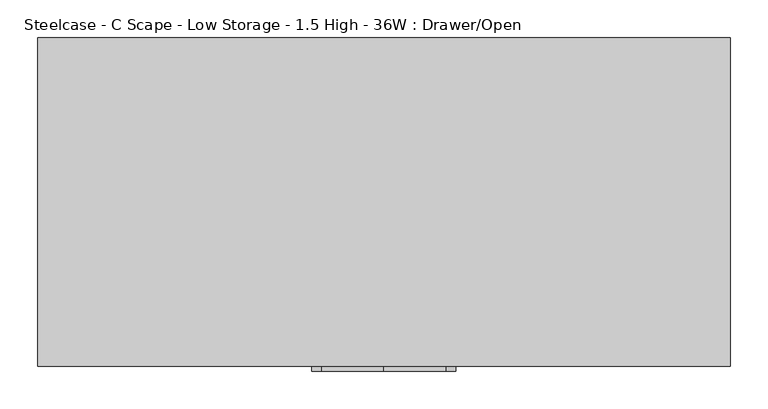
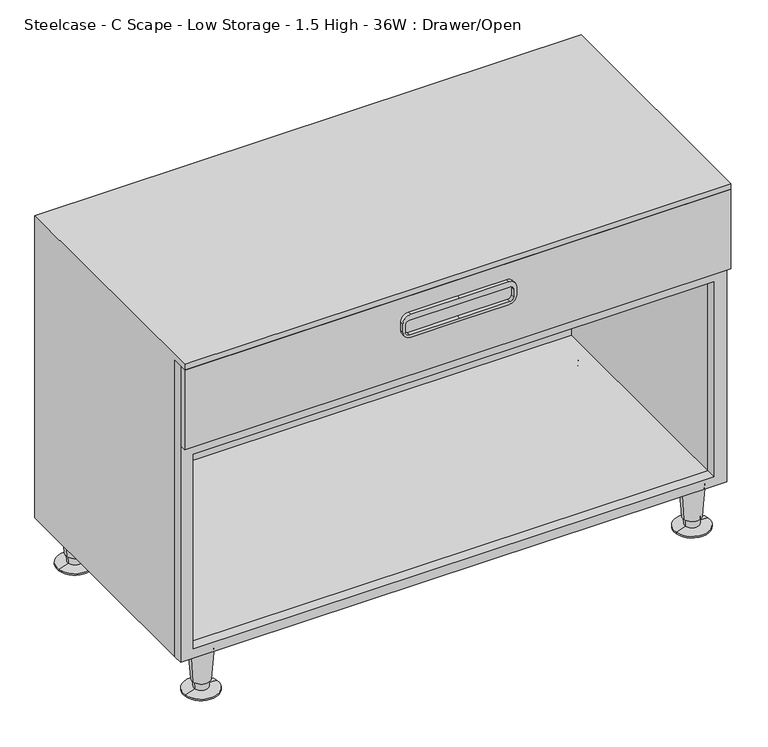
"""IFC4 building model written with IfcOpenShell, lengths in millimetres: furniture geometry, Steelcase - C Scape - Low Storage - 1.5 High - 36W : Drawer/Open."""

import ifcopenshell
import ifcopenshell.guid

model = None  # the IFC model being written
_history = None  # IfcOwnerHistory: only IFC2X3 demands one
_inside = {}  # id of a spatial element -> (the spatial element, [elements in it])
_under = {}  # id of a project, library or spatial element -> (it, [spatial elements below it])
_declared = {}  # id of a project -> (the project, [libraries it declares])
_typed = {}  # id of a type object -> (the type object, [elements of that type])
_made_of = {}  # id of a material, layer set ... -> (it, [elements and type objects made of it])


def new_model(schema):
    """Start an empty IFC model of exactly this schema.

    Asked for "IFC4X3", IfcOpenShell would pick the latest addendum, in which some entities
    have other attributes; the version numbers below select the first issue.
    IFC2X3 requires an IfcOwnerHistory on every rooted entity: one is made here for all.
    """
    global model, _history
    if schema == "IFC4X3":
        model = ifcopenshell.file(schema_version=(4, 3, 0, 0))
    else:
        model = ifcopenshell.file(schema=schema)
    _inside.clear()
    _under.clear()
    _declared.clear()
    _typed.clear()
    _made_of.clear()
    _history = None
    if model.schema == "IFC2X3":
        org = make("IfcOrganization", Name="unknown")
        user = make(
            "IfcPersonAndOrganization",
            ThePerson=make("IfcPerson", FamilyName="unknown"),
            TheOrganization=org,
        )
        app = make(
            "IfcApplication",
            ApplicationDeveloper=org,
            Version="unknown",
            ApplicationFullName="unknown",
            ApplicationIdentifier="unknown",
        )
        _history = make(
            "IfcOwnerHistory",
            OwningUser=user,
            OwningApplication=app,
            ChangeAction="ADDED",
            CreationDate=0,
        )
    return model


def make(cls, **values):
    """One entity of the class cls with the attributes given. An attribute that is None is left unset."""
    return model.create_entity(
        cls, **{name: value for name, value in values.items() if value is not None}
    )


def rooted(cls, **values):
    """An entity with a GlobalId (a new one), such as an element, a storey or a relation."""
    return make(cls, GlobalId=ifcopenshell.guid.new(), OwnerHistory=_history, **values)


def si_unit(unit_type, name, prefix=None):
    """IfcSIUnit, for example si_unit("LENGTHUNIT", "METRE", prefix="MILLI")."""
    return make("IfcSIUnit", UnitType=unit_type, Prefix=prefix, Name=name)


def assignment(units):
    """IfcUnitAssignment: the units of a project."""
    return None if units is None else make("IfcUnitAssignment", Units=units)


def point(xyz):
    """IfcCartesianPoint."""
    return None if xyz is None else make("IfcCartesianPoint", Coordinates=xyz)


def direction(xyz):
    """IfcDirection."""
    return None if xyz is None else make("IfcDirection", DirectionRatios=xyz)


def frame(location, z_axis=None, x_axis=None):
    """IfcAxis2Placement3D, a coordinate frame: its origin and axes. An axis left out is left unset."""
    return make(
        "IfcAxis2Placement3D",
        Location=point(location),
        Axis=direction(z_axis),
        RefDirection=direction(x_axis),
    )


def frame_2d(location, x_axis=None):
    """IfcAxis2Placement2D, a coordinate frame in the plane: its origin and x axis."""
    return make(
        "IfcAxis2Placement2D", Location=point(location), RefDirection=direction(x_axis)
    )


def origin():
    """The frame at (0, 0, 0) with its axes left unset."""
    return frame((0.0, 0.0, 0.0))


def place(relative_to, where):
    """IfcLocalPlacement: puts the frame where relative to a parent placement (None: the world)."""
    return make(
        "IfcLocalPlacement", PlacementRelTo=relative_to, RelativePlacement=where
    )


def context(
    kind, dimensions, precision=None, world=None, true_north=None, identifier=None
):
    """IfcGeometricRepresentationContext, for example the 3D "Model" context."""
    return make(
        "IfcGeometricRepresentationContext",
        ContextIdentifier=identifier,
        ContextType=kind,
        CoordinateSpaceDimension=dimensions,
        Precision=precision,
        WorldCoordinateSystem=world,
        TrueNorth=true_north,
    )


def project(units=None, contexts=None):
    """IfcProject with its units and contexts."""
    return rooted(
        "IfcProject",
        Name="project",
        RepresentationContexts=contexts,
        UnitsInContext=assignment(units),
    )


def spatial(cls, under=None, at=None, **own):
    """A site, building, storey or space (cls), placed at a placement, below another one or the project."""
    s = rooted(cls, ObjectPlacement=at, **own)
    if under is not None:
        _under.setdefault(under.id(), (under, []))[1].append(s)
    return s


def polyline(points):
    """IfcPolyline through the points."""
    return make("IfcPolyline", Points=[point(p) for p in points])


def circle_curve(where, radius):
    """IfcCircle in the frame where."""
    return make("IfcCircle", Position=where, Radius=radius)


def trimmed(basis, trim1, trim2, sense, master):
    """IfcTrimmedCurve: the piece of a basis curve between two trims."""
    return make(
        "IfcTrimmedCurve",
        BasisCurve=basis,
        Trim1=trim1,
        Trim2=trim2,
        SenseAgreement=sense,
        MasterRepresentation=master,
    )


def segment(curve, same_sense, transition):
    """IfcCompositeCurveSegment."""
    return make(
        "IfcCompositeCurveSegment",
        Transition=transition,
        SameSense=same_sense,
        ParentCurve=curve,
    )


def composite_curve(segments, self_intersect=None):
    """IfcCompositeCurve: segments joined end to end."""
    return make("IfcCompositeCurve", Segments=segments, SelfIntersect=self_intersect)


def outline(outer, holes=None, kind="AREA"):
    """IfcArbitraryClosedProfileDef: a profile drawn as a closed curve; with holes, ...WithVoids."""
    if holes is None:
        return make("IfcArbitraryClosedProfileDef", ProfileType=kind, OuterCurve=outer)
    return make(
        "IfcArbitraryProfileDefWithVoids",
        ProfileType=kind,
        OuterCurve=outer,
        InnerCurves=holes,
    )


def extrude(swept, where, along, depth):
    """IfcExtrudedAreaSolid: the profile swept, set in the frame where, extruded along a direction by depth."""
    return make(
        "IfcExtrudedAreaSolid",
        SweptArea=swept,
        Position=where,
        ExtrudedDirection=direction(along),
        Depth=depth,
    )


def faces_of(points, faces, orient=None, outer=None):
    """IfcFace entities. A face is a list of loops; a loop is a list of indices into points, from 0.

    orient and outer hold one flag for each loop. By default every Orientation is true, the
    first loop of a face is its IfcFaceOuterBound and the others are IfcFaceBound.
    """
    made = []
    for i, loops in enumerate(faces):
        bounds = []
        for j, loop in enumerate(loops):
            is_outer = j == 0 if outer is None else outer[i][j]
            bounds.append(
                make(
                    "IfcFaceOuterBound" if is_outer else "IfcFaceBound",
                    Bound=make("IfcPolyLoop", Polygon=[points[k] for k in loop]),
                    Orientation=True if orient is None else orient[i][j],
                )
            )
        made.append(make("IfcFace", Bounds=bounds))
    return made


def faceted_brep(points, faces, orient=None, outer=None, voids=None):
    """IfcFacetedBrep: a solid bounded by flat faces; with voids (closed shells), ...WithVoids."""
    shared = [point(p) for p in points]
    hull = make("IfcClosedShell", CfsFaces=faces_of(shared, faces, orient, outer))
    if voids is None:
        return make("IfcFacetedBrep", Outer=hull)
    return make(
        "IfcFacetedBrepWithVoids",
        Outer=hull,
        Voids=[
            make(cls, CfsFaces=faces_of(shared, fs, o, b)) for cls, fs, o, b in voids
        ],
    )


def shape(context_of_items, identifier, shape_type, items):
    """IfcShapeRepresentation: the items that make up one representation, for example the "Body"."""
    return make(
        "IfcShapeRepresentation",
        ContextOfItems=context_of_items,
        RepresentationIdentifier=identifier,
        RepresentationType=shape_type,
        Items=items,
    )


def source(mapping_origin, context_of_items, identifier, shape_type, items):
    """IfcRepresentationMap: a shape defined once, which mapped items show again and again."""
    return make(
        "IfcRepresentationMap",
        MappingOrigin=mapping_origin,
        MappedRepresentation=shape(context_of_items, identifier, shape_type, items),
    )


def transform(
    local_origin,
    x_axis=None,
    y_axis=None,
    z_axis=None,
    scale=None,
    scale2=None,
    scale3=None,
    uniform=True,
):
    """IfcCartesianTransformationOperator3D, or its non-uniform kind. x_axis, y_axis, z_axis: its Axis1, 2, 3."""
    if uniform:
        return make(
            "IfcCartesianTransformationOperator3D",
            Axis1=direction(x_axis),
            Axis2=direction(y_axis),
            LocalOrigin=point(local_origin),
            Scale=scale,
            Axis3=direction(z_axis),
        )
    return make(
        "IfcCartesianTransformationOperator3DnonUniform",
        Axis1=direction(x_axis),
        Axis2=direction(y_axis),
        LocalOrigin=point(local_origin),
        Scale=scale,
        Axis3=direction(z_axis),
        Scale2=scale2,
        Scale3=scale3,
    )


def mapped(mapping_source, mapping_target):
    """IfcMappedItem: shows the shape of a source again, moved by a transform."""
    return make(
        "IfcMappedItem", MappingSource=mapping_source, MappingTarget=mapping_target
    )


def made_of(thing, what):
    """Note that an element or type object is made of a material, layer set ...; save() writes the relation."""
    if what is not None:
        _made_of.setdefault(what.id(), (what, []))[1].append(thing)
    return thing


def element(
    cls,
    number,
    at=None,
    inside=None,
    cuts=None,
    type_object=None,
    material=None,
    context=None,
    identifier="Body",
    shape_type=None,
    held_by="IfcProductDefinitionShape",
    body=None,
    shapes=None,
    **own,
):
    """One element of the class cls, such as IfcWall. Its Tag is "e" and its number.

    at: its placement. inside: the storey or other place that contains it. cuts: it is an
    opening in that element (IfcRelVoidsElement). A single representation is given by context,
    identifier, shape_type and body (its items); several are given by shapes. held_by: the class
    of the entity that holds the representations. save() writes the other relations.
    """
    e = rooted(cls, Tag="e%d" % number, ObjectPlacement=at, **own)
    if body is not None:
        shapes = [shape(context, identifier, shape_type, body)]
    if shapes is not None:
        e.Representation = make(held_by, Representations=shapes)
    if inside is not None:
        _inside.setdefault(inside.id(), (inside, []))[1].append(e)
    if cuts is not None:
        rooted(
            "IfcRelVoidsElement", RelatingBuildingElement=cuts, RelatedOpeningElement=e
        )
    if type_object is not None:
        _typed.setdefault(type_object.id(), (type_object, []))[1].append(e)
    return made_of(e, material)


def aggregate(whole, parts):
    """IfcRelAggregates: a whole, such as a stair, and the parts it consists of."""
    return rooted("IfcRelAggregates", RelatingObject=whole, RelatedObjects=parts)


def save(model, path):
    """Write the relations noted so far, then the file.

    IfcRelAggregates (storeys below a building ...), IfcRelContainedInSpatialStructure (elements
    in a storey), IfcRelDefinesByType, IfcRelAssociatesMaterial and IfcRelDeclares: one each for
    every whole, place, type object, material and project.
    """
    for whole, parts in _under.values():
        aggregate(whole, parts)
    for where, things in _inside.values():
        rooted(
            "IfcRelContainedInSpatialStructure",
            RelatedElements=things,
            RelatingStructure=where,
        )
    for kind, things in _typed.values():
        rooted("IfcRelDefinesByType", RelatedObjects=things, RelatingType=kind)
    for what, things in _made_of.values():
        rooted("IfcRelAssociatesMaterial", RelatedObjects=things, RelatingMaterial=what)
    for by, libraries in _declared.values():
        rooted("IfcRelDeclares", RelatingContext=by, RelatedDefinitions=libraries)
    model.write(path)


def plane_surface(at):
    """IfcPlane: the flat surface through the origin of the frame at, square to its z axis."""
    return make("IfcPlane", Position=at)


def cylinder_surface(at, radius):
    """IfcCylindricalSurface: all points at the distance radius from the z axis of the frame at."""
    return make("IfcCylindricalSurface", Position=at, Radius=radius)


def revolved_surface(curve, axis_point, axis_direction):
    """IfcSurfaceOfRevolution: the curve turned about the line through axis_point along axis_direction."""
    return make(
        "IfcSurfaceOfRevolution",
        SweptCurve=make("IfcArbitraryOpenProfileDef", ProfileType="CURVE", Curve=curve),
        AxisPosition=make("IfcAxis1Placement", Location=point(axis_point), Axis=direction(axis_direction)),
    )


def advanced_brep(points, edges, surfaces, faces):
    """IfcAdvancedBrep: a solid bounded by faces that lie on surfaces and meet in shared edges.

    An edge is (start, end): straight between two places in points (the first is 0);
    or (start, end, curve); or (start, end, curve, False) where it runs against its curve.
    A face is (place in surfaces, loops), or (place, loops, False) where it looks against
    its surface's normal. A loop lists edges by number (the first is 1), with a minus sign
    where the edge is run from its end to its start. The first loop is the outer one.
    """
    corners = [point(p) for p in points]
    vertices = [make("IfcVertexPoint", VertexGeometry=c) for c in corners]
    made = []
    for start, end, *more in edges:
        made.append(
            make(
                "IfcEdgeCurve",
                EdgeStart=vertices[start],
                EdgeEnd=vertices[end],
                EdgeGeometry=more[0] if more else make("IfcPolyline", Points=[corners[start], corners[end]]),
                SameSense=more[1] if len(more) > 1 else True,
            )
        )
    hull = []
    for where, loops, *sense in faces:
        bounds = []
        for j, loop in enumerate(loops):
            ring = [make("IfcOrientedEdge", EdgeElement=made[abs(k) - 1], Orientation=k > 0) for k in loop]
            bounds.append(
                make(
                    "IfcFaceOuterBound" if j == 0 else "IfcFaceBound",
                    Bound=make("IfcEdgeLoop", EdgeList=ring),
                    Orientation=True,
                )
            )
        hull.append(make("IfcAdvancedFace", Bounds=bounds, FaceSurface=surfaces[where], SameSense=sense[0] if sense else True))
    return make("IfcAdvancedBrep", Outer=make("IfcClosedShell", CfsFaces=hull))


def steelcase_c_scape_low_storage_1_5_high_36w_drawer_open_068823da(model_context):
    return source(origin(), model_context, "Body", "SolidModel", [
        extrude(outline(polyline([(76.2, 0.0), (76.2, 913.13), (599.44, 913.13), (599.44, 0.0), (76.2, 0.0)]), holes=[polyline([(458.7875121, 891.1617285), (458.7875121, 21.3382324), (582.93, 21.3382324), (582.93, 891.1617285), (458.7875121, 891.1617285)]), polyline([(92.7100024, 891.1617285), (92.7100024, 21.3382324), (436.8419, 21.3382324), (436.8419, 891.1617285), (92.7100024, 891.1617285)])]), frame((0.0, -421.6443408, 0.0), z_axis=(0.0, 1.0, 0.0), x_axis=(0.0, 0.0, 1.0)), (0.0, 0.0, 1.0), 17.2762904),
        extrude(outline(composite_curve([segment(trimmed(circle_curve(frame_2d((558.165, 374.0147442)), 12.7), [point((570.865, 374.0147442))], [point((558.165, 361.3147442))], False, "CARTESIAN"), True, "CONTINUOUS"), segment(polyline([(558.165, 361.3147442), (543.5600291, 361.3147442)]), True, "CONTINUOUS"), segment(trimmed(circle_curve(frame_2d((543.5600291, 374.0147442)), 12.7), [point((543.5600291, 361.3147442))], [point((530.8600291, 374.0147442))], False, "CARTESIAN"), True, "CONTINUOUS"), segment(polyline([(530.8600291, 374.0147442), (530.8600291, 456.2475), (530.8600291, 538.4802558)]), True, "CONTINUOUS"), segment(trimmed(circle_curve(frame_2d((543.5600291, 538.4802558)), 12.7), [point((530.8600291, 538.4802558))], [point((543.5600291, 551.1802558))], False, "CARTESIAN"), True, "CONTINUOUS"), segment(polyline([(543.5600291, 551.1802558), (558.165, 551.1802558)]), True, "CONTINUOUS"), segment(trimmed(circle_curve(frame_2d((558.165, 538.4802558)), 12.7), [point((558.165, 551.1802558))], [point((570.865, 538.4802558))], False, "CARTESIAN"), True, "CONTINUOUS"), segment(polyline([(570.865, 538.4802558), (570.865, 456.2475), (570.865, 374.0147442)]), True, "CONTINUOUS")], self_intersect=False), holes=[composite_curve([segment(trimmed(circle_curve(frame_2d((554.7360184, 372.4923565)), 6.35), [point((554.7360184, 366.1423565))], [point((561.0860184, 372.4923565))], True, "CARTESIAN"), True, "CONTINUOUS"), segment(polyline([(561.0860184, 372.4923565), (561.0860184, 456.2475), (561.0860184, 540.0026435)]), True, "CONTINUOUS"), segment(trimmed(circle_curve(frame_2d((554.7360184, 540.0026435)), 6.35), [point((561.0860184, 540.0026435))], [point((554.7360184, 546.3526435))], True, "CARTESIAN"), True, "CONTINUOUS"), segment(polyline([(554.7360184, 546.3526435), (542.0360063, 546.3526435)]), True, "CONTINUOUS"), segment(trimmed(circle_curve(frame_2d((542.0360063, 540.0026435)), 6.35), [point((542.0360063, 546.3526435))], [point((535.6860063, 540.0026435))], True, "CARTESIAN"), True, "CONTINUOUS"), segment(polyline([(535.6860063, 540.0026435), (535.6860063, 456.2475), (535.6860063, 372.4923565)]), True, "CONTINUOUS"), segment(trimmed(circle_curve(frame_2d((542.0360063, 372.4923565)), 6.35), [point((535.6860063, 372.4923565))], [point((542.0360063, 366.1423565))], True, "CARTESIAN"), True, "CONTINUOUS"), segment(polyline([(542.0360063, 366.1423565), (554.7360184, 366.1423565)]), True, "CONTINUOUS")], self_intersect=False)]), frame((0.0, -439.42, 0.0), z_axis=(0.0, 1.0, 0.0), x_axis=(0.0, 0.0, 1.0)), (0.0, 0.0, 1.0), 6.35),
        advanced_brep(
        [(885.8598695, -31.5218435, 76.2), (848.1981305, -37.2840847, 76.2), (867.029, -34.4029641, 76.2), (881.9095214, -32.1262463, 19.05), (852.1484786, -36.6796819, 19.05), (879.4799345, -32.4979728, 19.05), (854.5780655, -36.3079555, 19.05), (878.791165, -32.6033544, 5.7545598), (855.266835, -36.2025738, 5.7545598), (896.1400485, -29.9489775, 2.5119506), (837.9179515, -38.8569507, 2.5119506), (896.1400485, -29.9489775, 0.0), (837.9179515, -38.8569507, 0.0), (867.029, -34.4029641, 0.0)],
        [
            (0, 1, circle_curve(frame((867.029, -34.4029641, 76.2), z_axis=(0.0, 0.0, 1.0), x_axis=(0.0, -1.0, 0.0)), 19.05)),
            (1, 2),
            (2, 0),
            (1, 0, circle_curve(frame((867.029, -34.4029641, 76.2), z_axis=(0.0, 0.0, 1.0), x_axis=(0.0, -1.0, 0.0)), 19.05)),
            (3, 4, circle_curve(frame((867.029, -34.4029641, 19.05), z_axis=(0.0, 0.0, 1.0), x_axis=(0.0, -1.0, 0.0)), 15.0536827)),
            (4, 1),
            (0, 3),
            (4, 3, circle_curve(frame((867.029, -34.4029641, 19.05), z_axis=(0.0, 0.0, 1.0), x_axis=(0.0, -1.0, 0.0)), 15.0536827)),
            (5, 6, circle_curve(frame((867.029, -34.4029641, 19.05), z_axis=(0.0, 0.0, 1.0), x_axis=(0.0, -1.0, 0.0)), 12.5958232)),
            (6, 4),
            (3, 5),
            (6, 5, circle_curve(frame((867.029, -34.4029641, 19.05), z_axis=(0.0, 0.0, 1.0), x_axis=(0.0, -1.0, 0.0)), 12.5958232)),
            (7, 8, circle_curve(frame((867.029, -34.4029641, 5.7545598), z_axis=(0.0, 0.0, 1.0), x_axis=(0.0, -1.0, 0.0)), 11.8990387)),
            (8, 6),
            (5, 7),
            (8, 7, circle_curve(frame((867.029, -34.4029641, 5.7545598), z_axis=(0.0, 0.0, 1.0), x_axis=(0.0, -1.0, 0.0)), 11.8990387)),
            (9, 10, circle_curve(frame((867.029, -34.4029641, 2.5119506), z_axis=(0.0, 0.0, 1.0), x_axis=(0.0, -1.0, 0.0)), 29.4498071)),
            (10, 8),
            (7, 9),
            (10, 9, circle_curve(frame((867.029, -34.4029641, 2.5119506), z_axis=(0.0, 0.0, 1.0), x_axis=(0.0, -1.0, 0.0)), 29.4498071)),
            (11, 12, circle_curve(frame((867.029, -34.4029641, 0.0), z_axis=(0.0, 0.0, 1.0), x_axis=(0.0, -1.0, 0.0)), 29.4498071)),
            (12, 10),
            (9, 11),
            (12, 11, circle_curve(frame((867.029, -34.4029641, 0.0), z_axis=(0.0, 0.0, 1.0), x_axis=(0.0, -1.0, 0.0)), 29.4498071)),
            (13, 12),
            (11, 13),
        ],
        [
            plane_surface(frame((867.029, -34.4029641, 76.2), z_axis=(0.0, 0.0, 1.0), x_axis=(0.0, -1.0, 0.0))),
            revolved_surface(polyline([(867.029, -53.4529641, 76.2), (867.029, -49.4566468, 19.05)]), (867.029, -34.4029641, 25.4), (0.0, 0.0, -1.0)),
            plane_surface(frame((867.029, -34.4029641, 19.05), z_axis=(0.0, 0.0, -1.0), x_axis=(0.0, -1.0, 0.0))),
            revolved_surface(polyline([(867.029, -46.9987873, 19.05), (867.029, -46.3020028, 5.7545598)]), (867.029, -34.4029641, 25.4), (0.0, 0.0, -1.0)),
            revolved_surface(polyline([(867.029, -46.3020028, 5.7545598), (867.029, -63.8527712, 2.5119506)]), (867.029, -34.4029641, 25.4), (0.0, 0.0, -1.0)),
            cylinder_surface(frame((867.029, -34.4029641, 25.4), z_axis=(0.0, 0.0, -1.0), x_axis=(0.0, -1.0, 0.0)), 29.4498071),
            plane_surface(frame((867.029, -34.4029641, 0.0), z_axis=(0.0, 0.0, -1.0), x_axis=(0.0, -1.0, 0.0))),
        ],
        [
            (0, [[1, 2, 3]]),
            (0, [[4, -3, -2]]),
            (1, [[5, 6, -1, 7]]),
            (1, [[8, -7, -4, -6]]),
            (2, [[9, 10, -5, 11]]),
            (2, [[12, -11, -8, -10]]),
            (3, [[13, 14, -9, 15]]),
            (3, [[16, -15, -12, -14]]),
            (4, [[17, 18, -13, 19]]),
            (4, [[20, -19, -16, -18]]),
            (5, [[21, 22, -17, 23]]),
            (5, [[24, -23, -20, -22]]),
            (6, [[25, -21, 26]]),
            (6, [[-26, -24, -25]]),
        ],
    ),
        advanced_brep(
        [(885.8598695, -397.1702762, 76.2), (848.1981305, -402.9325174, 76.2), (867.029, -400.0513968, 76.2), (881.9095214, -397.774679, 19.05), (852.1484786, -402.3281146, 19.05), (879.4799345, -398.1464055, 19.05), (854.5780655, -401.9563882, 19.05), (878.791165, -398.2517871, 5.7545598), (855.266835, -401.8510065, 5.7545598), (896.1400485, -395.5974102, 2.5119506), (837.9179515, -404.5053834, 2.5119506), (896.1400485, -395.5974102, 0.0), (837.9179515, -404.5053834, 0.0), (867.029, -400.0513968, 0.0)],
        [
            (0, 1, circle_curve(frame((867.029, -400.0513968, 76.2), z_axis=(0.0, 0.0, 1.0), x_axis=(0.0, -1.0, 0.0)), 19.05)),
            (1, 2),
            (2, 0),
            (1, 0, circle_curve(frame((867.029, -400.0513968, 76.2), z_axis=(0.0, 0.0, 1.0), x_axis=(0.0, -1.0, 0.0)), 19.05)),
            (3, 4, circle_curve(frame((867.029, -400.0513968, 19.05), z_axis=(0.0, 0.0, 1.0), x_axis=(0.0, -1.0, 0.0)), 15.0536827)),
            (4, 1),
            (0, 3),
            (4, 3, circle_curve(frame((867.029, -400.0513968, 19.05), z_axis=(0.0, 0.0, 1.0), x_axis=(0.0, -1.0, 0.0)), 15.0536827)),
            (5, 6, circle_curve(frame((867.029, -400.0513968, 19.05), z_axis=(0.0, 0.0, 1.0), x_axis=(0.0, -1.0, 0.0)), 12.5958232)),
            (6, 4),
            (3, 5),
            (6, 5, circle_curve(frame((867.029, -400.0513968, 19.05), z_axis=(0.0, 0.0, 1.0), x_axis=(0.0, -1.0, 0.0)), 12.5958232)),
            (7, 8, circle_curve(frame((867.029, -400.0513968, 5.7545598), z_axis=(0.0, 0.0, 1.0), x_axis=(0.0, -1.0, 0.0)), 11.8990387)),
            (8, 6),
            (5, 7),
            (8, 7, circle_curve(frame((867.029, -400.0513968, 5.7545598), z_axis=(0.0, 0.0, 1.0), x_axis=(0.0, -1.0, 0.0)), 11.8990387)),
            (9, 10, circle_curve(frame((867.029, -400.0513968, 2.5119506), z_axis=(0.0, 0.0, 1.0), x_axis=(0.0, -1.0, 0.0)), 29.4498071)),
            (10, 8),
            (7, 9),
            (10, 9, circle_curve(frame((867.029, -400.0513968, 2.5119506), z_axis=(0.0, 0.0, 1.0), x_axis=(0.0, -1.0, 0.0)), 29.4498071)),
            (11, 12, circle_curve(frame((867.029, -400.0513968, 0.0), z_axis=(0.0, 0.0, 1.0), x_axis=(0.0, -1.0, 0.0)), 29.4498071)),
            (12, 10),
            (9, 11),
            (12, 11, circle_curve(frame((867.029, -400.0513968, 0.0), z_axis=(0.0, 0.0, 1.0), x_axis=(0.0, -1.0, 0.0)), 29.4498071)),
            (13, 12),
            (11, 13),
        ],
        [
            plane_surface(frame((867.029, -400.0513968, 76.2), z_axis=(0.0, 0.0, 1.0), x_axis=(0.0, -1.0, 0.0))),
            revolved_surface(polyline([(867.029, -419.1013968, 76.2), (867.029, -415.1050795, 19.05)]), (867.029, -400.0513968, 25.4), (0.0, 0.0, -1.0)),
            plane_surface(frame((867.029, -400.0513968, 19.05), z_axis=(0.0, 0.0, -1.0), x_axis=(0.0, -1.0, 0.0))),
            revolved_surface(polyline([(867.029, -412.64722, 19.05), (867.029, -411.9504355, 5.7545598)]), (867.029, -400.0513968, 25.4), (0.0, 0.0, -1.0)),
            revolved_surface(polyline([(867.029, -411.9504355, 5.7545598), (867.029, -429.5012039, 2.5119506)]), (867.029, -400.0513968, 25.4), (0.0, 0.0, -1.0)),
            cylinder_surface(frame((867.029, -400.0513968, 25.4), z_axis=(0.0, 0.0, -1.0), x_axis=(0.0, -1.0, 0.0)), 29.4498071),
            plane_surface(frame((867.029, -400.0513968, 0.0), z_axis=(0.0, 0.0, -1.0), x_axis=(0.0, -1.0, 0.0))),
        ],
        [
            (0, [[1, 2, 3]]),
            (0, [[4, -3, -2]]),
            (1, [[5, 6, -1, 7]]),
            (1, [[8, -7, -4, -6]]),
            (2, [[9, 10, -5, 11]]),
            (2, [[12, -11, -8, -10]]),
            (3, [[13, 14, -9, 15]]),
            (3, [[16, -15, -12, -14]]),
            (4, [[17, 18, -13, 19]]),
            (4, [[20, -19, -16, -18]]),
            (5, [[21, 22, -17, 23]]),
            (5, [[24, -23, -20, -22]]),
            (6, [[25, -21, 26]]),
            (6, [[-26, -24, -25]]),
        ],
    ),
        advanced_brep(
        [(65.5422821, -397.1702762, 76.2), (27.8805432, -402.9325174, 76.2), (46.7114126, -400.0513968, 76.2), (61.5919341, -397.774679, 19.05), (31.8308912, -402.3281146, 19.05), (59.1623471, -398.1464055, 19.05), (34.2604781, -401.9563882, 19.05), (58.4735776, -398.2517871, 5.7545598), (34.9492476, -401.8510065, 5.7545598), (75.8224611, -395.5974102, 2.5119506), (17.6003641, -404.5053834, 2.5119506), (75.8224611, -395.5974102, 0.0), (17.6003641, -404.5053834, 0.0), (46.7114126, -400.0513968, 0.0)],
        [
            (0, 1, circle_curve(frame((46.7114126, -400.0513968, 76.2), z_axis=(0.0, 0.0, 1.0), x_axis=(0.0, -1.0, 0.0)), 19.05)),
            (1, 2),
            (2, 0),
            (1, 0, circle_curve(frame((46.7114126, -400.0513968, 76.2), z_axis=(0.0, 0.0, 1.0), x_axis=(0.0, -1.0, 0.0)), 19.05)),
            (3, 4, circle_curve(frame((46.7114126, -400.0513968, 19.05), z_axis=(0.0, 0.0, 1.0), x_axis=(0.0, -1.0, 0.0)), 15.0536827)),
            (4, 1),
            (0, 3),
            (4, 3, circle_curve(frame((46.7114126, -400.0513968, 19.05), z_axis=(0.0, 0.0, 1.0), x_axis=(0.0, -1.0, 0.0)), 15.0536827)),
            (5, 6, circle_curve(frame((46.7114126, -400.0513968, 19.05), z_axis=(0.0, 0.0, 1.0), x_axis=(0.0, -1.0, 0.0)), 12.5958232)),
            (6, 4),
            (3, 5),
            (6, 5, circle_curve(frame((46.7114126, -400.0513968, 19.05), z_axis=(0.0, 0.0, 1.0), x_axis=(0.0, -1.0, 0.0)), 12.5958232)),
            (7, 8, circle_curve(frame((46.7114126, -400.0513968, 5.7545598), z_axis=(0.0, 0.0, 1.0), x_axis=(0.0, -1.0, 0.0)), 11.8990387)),
            (8, 6),
            (5, 7),
            (8, 7, circle_curve(frame((46.7114126, -400.0513968, 5.7545598), z_axis=(0.0, 0.0, 1.0), x_axis=(0.0, -1.0, 0.0)), 11.8990387)),
            (9, 10, circle_curve(frame((46.7114126, -400.0513968, 2.5119506), z_axis=(0.0, 0.0, 1.0), x_axis=(0.0, -1.0, 0.0)), 29.4498071)),
            (10, 8),
            (7, 9),
            (10, 9, circle_curve(frame((46.7114126, -400.0513968, 2.5119506), z_axis=(0.0, 0.0, 1.0), x_axis=(0.0, -1.0, 0.0)), 29.4498071)),
            (11, 12, circle_curve(frame((46.7114126, -400.0513968, 0.0), z_axis=(0.0, 0.0, 1.0), x_axis=(0.0, -1.0, 0.0)), 29.4498071)),
            (12, 10),
            (9, 11),
            (12, 11, circle_curve(frame((46.7114126, -400.0513968, 0.0), z_axis=(0.0, 0.0, 1.0), x_axis=(0.0, -1.0, 0.0)), 29.4498071)),
            (13, 12),
            (11, 13),
        ],
        [
            plane_surface(frame((46.7114126, -400.0513968, 76.2), z_axis=(0.0, 0.0, 1.0), x_axis=(0.0, -1.0, 0.0))),
            revolved_surface(polyline([(46.7114126, -419.1013968, 76.2), (46.7114126, -415.1050795, 19.05)]), (46.7114126, -400.0513968, 25.4), (0.0, 0.0, -1.0)),
            plane_surface(frame((46.7114126, -400.0513968, 19.05), z_axis=(0.0, 0.0, -1.0), x_axis=(0.0, -1.0, 0.0))),
            revolved_surface(polyline([(46.7114126, -412.64722, 19.05), (46.7114126, -411.9504355, 5.7545598)]), (46.7114126, -400.0513968, 25.4), (0.0, 0.0, -1.0)),
            revolved_surface(polyline([(46.7114126, -411.9504355, 5.7545598), (46.7114126, -429.5012039, 2.5119506)]), (46.7114126, -400.0513968, 25.4), (0.0, 0.0, -1.0)),
            cylinder_surface(frame((46.7114126, -400.0513968, 25.4), z_axis=(0.0, 0.0, -1.0), x_axis=(0.0, -1.0, 0.0)), 29.4498071),
            plane_surface(frame((46.7114126, -400.0513968, 0.0), z_axis=(0.0, 0.0, -1.0), x_axis=(0.0, -1.0, 0.0))),
        ],
        [
            (0, [[1, 2, 3]]),
            (0, [[4, -3, -2]]),
            (1, [[5, 6, -1, 7]]),
            (1, [[8, -7, -4, -6]]),
            (2, [[9, 10, -5, 11]]),
            (2, [[12, -11, -8, -10]]),
            (3, [[13, 14, -9, 15]]),
            (3, [[16, -15, -12, -14]]),
            (4, [[17, 18, -13, 19]]),
            (4, [[20, -19, -16, -18]]),
            (5, [[21, 22, -17, 23]]),
            (5, [[24, -23, -20, -22]]),
            (6, [[25, -21, 26]]),
            (6, [[-26, -24, -25]]),
        ],
    ),
        advanced_brep(
        [(65.5422821, -31.5218435, 76.2), (27.8805432, -37.2840847, 76.2), (46.7114126, -34.4029641, 76.2), (61.5919341, -32.1262463, 19.05), (31.8308912, -36.6796819, 19.05), (59.1623471, -32.4979728, 19.05), (34.2604781, -36.3079555, 19.05), (58.4735776, -32.6033544, 5.7545598), (34.9492476, -36.2025738, 5.7545598), (75.8224611, -29.9489775, 2.5119506), (17.6003641, -38.8569507, 2.5119506), (75.8224611, -29.9489775, 0.0), (17.6003641, -38.8569507, 0.0), (46.7114126, -34.4029641, 0.0)],
        [
            (0, 1, circle_curve(frame((46.7114126, -34.4029641, 76.2), z_axis=(0.0, 0.0, 1.0), x_axis=(0.0, -1.0, 0.0)), 19.05)),
            (1, 2),
            (2, 0),
            (1, 0, circle_curve(frame((46.7114126, -34.4029641, 76.2), z_axis=(0.0, 0.0, 1.0), x_axis=(0.0, -1.0, 0.0)), 19.05)),
            (3, 4, circle_curve(frame((46.7114126, -34.4029641, 19.05), z_axis=(0.0, 0.0, 1.0), x_axis=(0.0, -1.0, 0.0)), 15.0536827)),
            (4, 1),
            (0, 3),
            (4, 3, circle_curve(frame((46.7114126, -34.4029641, 19.05), z_axis=(0.0, 0.0, 1.0), x_axis=(0.0, -1.0, 0.0)), 15.0536827)),
            (5, 6, circle_curve(frame((46.7114126, -34.4029641, 19.05), z_axis=(0.0, 0.0, 1.0), x_axis=(0.0, -1.0, 0.0)), 12.5958232)),
            (6, 4),
            (3, 5),
            (6, 5, circle_curve(frame((46.7114126, -34.4029641, 19.05), z_axis=(0.0, 0.0, 1.0), x_axis=(0.0, -1.0, 0.0)), 12.5958232)),
            (7, 8, circle_curve(frame((46.7114126, -34.4029641, 5.7545598), z_axis=(0.0, 0.0, 1.0), x_axis=(0.0, -1.0, 0.0)), 11.8990387)),
            (8, 6),
            (5, 7),
            (8, 7, circle_curve(frame((46.7114126, -34.4029641, 5.7545598), z_axis=(0.0, 0.0, 1.0), x_axis=(0.0, -1.0, 0.0)), 11.8990387)),
            (9, 10, circle_curve(frame((46.7114126, -34.4029641, 2.5119506), z_axis=(0.0, 0.0, 1.0), x_axis=(0.0, -1.0, 0.0)), 29.4498071)),
            (10, 8),
            (7, 9),
            (10, 9, circle_curve(frame((46.7114126, -34.4029641, 2.5119506), z_axis=(0.0, 0.0, 1.0), x_axis=(0.0, -1.0, 0.0)), 29.4498071)),
            (11, 12, circle_curve(frame((46.7114126, -34.4029641, 0.0), z_axis=(0.0, 0.0, 1.0), x_axis=(0.0, -1.0, 0.0)), 29.4498071)),
            (12, 10),
            (9, 11),
            (12, 11, circle_curve(frame((46.7114126, -34.4029641, 0.0), z_axis=(0.0, 0.0, 1.0), x_axis=(0.0, -1.0, 0.0)), 29.4498071)),
            (13, 12),
            (11, 13),
        ],
        [
            plane_surface(frame((46.7114126, -34.4029641, 76.2), z_axis=(0.0, 0.0, 1.0), x_axis=(0.0, -1.0, 0.0))),
            revolved_surface(polyline([(46.7114126, -53.4529641, 76.2), (46.7114126, -49.4566468, 19.05)]), (46.7114126, -34.4029641, 25.4), (0.0, 0.0, -1.0)),
            plane_surface(frame((46.7114126, -34.4029641, 19.05), z_axis=(0.0, 0.0, -1.0), x_axis=(0.0, -1.0, 0.0))),
            revolved_surface(polyline([(46.7114126, -46.9987873, 19.05), (46.7114126, -46.3020028, 5.7545598)]), (46.7114126, -34.4029641, 25.4), (0.0, 0.0, -1.0)),
            revolved_surface(polyline([(46.7114126, -46.3020028, 5.7545598), (46.7114126, -63.8527712, 2.5119506)]), (46.7114126, -34.4029641, 25.4), (0.0, 0.0, -1.0)),
            cylinder_surface(frame((46.7114126, -34.4029641, 25.4), z_axis=(0.0, 0.0, -1.0), x_axis=(0.0, -1.0, 0.0)), 29.4498071),
            plane_surface(frame((46.7114126, -34.4029641, 0.0), z_axis=(0.0, 0.0, -1.0), x_axis=(0.0, -1.0, 0.0))),
        ],
        [
            (0, [[1, 2, 3]]),
            (0, [[4, -3, -2]]),
            (1, [[5, 6, -1, 7]]),
            (1, [[8, -7, -4, -6]]),
            (2, [[9, 10, -5, 11]]),
            (2, [[12, -11, -8, -10]]),
            (3, [[13, 14, -9, 15]]),
            (3, [[16, -15, -12, -14]]),
            (4, [[17, 18, -13, 19]]),
            (4, [[20, -19, -16, -18]]),
            (5, [[21, 22, -17, 23]]),
            (5, [[24, -23, -20, -22]]),
            (6, [[25, -21, 26]]),
            (6, [[-26, -24, -25]]),
        ],
    ),
        extrude(outline(polyline([(913.13, -421.6443408), (913.13, -433.07), (0.0, -433.07), (0.0, -421.6443408), (913.13, -421.6443408)])), frame((0.0, 0.0, 458.7875121), z_axis=(0.0, 0.0, 1.0), x_axis=(1.0, 0.0, 0.0)), (0.0, 0.0, 1.0), 140.6524879),
        faceted_brep([(0.0, 0.0, 609.6), (913.13, 0.0, 609.6), (913.13, 0.0, 76.2), (0.0, 0.0, 76.2), (0.0, -433.07, 609.6), (0.0, -404.3680504, 76.2), (0.0, -404.3680504, 599.44), (0.0, -433.07, 599.44), (21.3382324, -404.3680504, 599.44), (913.13, -404.3680504, 76.2), (913.13, -404.3680504, 599.44), (891.1617285, -404.3680504, 599.44), (891.1617285, -404.3680504, 458.7875121), (21.3382324, -404.3680504, 458.7875121), (891.1617285, -404.3680504, 450.8499879), (891.1617285, -404.3680504, 92.7100024), (21.3382324, -404.3680504, 92.7100024), (21.3382324, -404.3680504, 450.8499879), (21.3382324, -9.525, 599.44), (21.3382324, -9.525, 458.7875121), (21.3382324, -9.525, 92.7100024), (21.3382324, -9.525, 450.8499879), (891.1617285, -9.525, 599.44), (891.1617285, -9.525, 458.7875121), (891.1617285, -9.525, 92.7100024), (891.1617285, -9.525, 450.8499879), (913.13, -433.07, 609.6), (913.13, -433.07, 599.44)], [[[0, 1, 2, 3]], [[4, 0, 3, 5, 6, 7]], [[8, 6, 5, 9, 10, 11, 12, 13], [14, 15, 16, 17]], [[18, 8, 13, 19]], [[17, 16, 20, 21]], [[22, 18, 19, 23]], [[21, 20, 24, 25]], [[11, 22, 23, 12]], [[25, 24, 15, 14]], [[2, 1, 26, 27, 10, 9]], [[1, 0, 4, 26]], [[27, 7, 6, 8, 18, 22, 11, 10]], [[26, 4, 7, 27]], [[13, 12, 23, 19]], [[14, 17, 21, 25]], [[16, 15, 24, 20]], [[2, 9, 5, 3]]]),
    ])


if __name__ == "__main__":
    model = new_model("IFC4")
    model_context = context("Model", 3, world=origin())
    ifc_project = project(units=[si_unit("LENGTHUNIT", "METRE", prefix="MILLI")], contexts=[model_context])
    site = spatial("IfcSite", under=ifc_project)
    building = spatial("IfcBuilding", under=site)
    placement = place(None, origin())
    steelcase_c_scape_low_storage_1_5_high_36w_drawer_open_shape = steelcase_c_scape_low_storage_1_5_high_36w_drawer_open_068823da(model_context)
    element("IfcFurniture", 1, ObjectType="Steelcase - C Scape - Low Storage - 1.5 High - 36W : Drawer/Open", at=placement, inside=building, context=model_context, shape_type="MappedRepresentation", body=[
        mapped(steelcase_c_scape_low_storage_1_5_high_36w_drawer_open_shape, transform((0.0, 0.0, 0.0), x_axis=(1.0, 0.0, 0.0), y_axis=(0.0, 1.0, 0.0), z_axis=(0.0, 0.0, 1.0))),
    ])
    save(model, "model.ifc")
